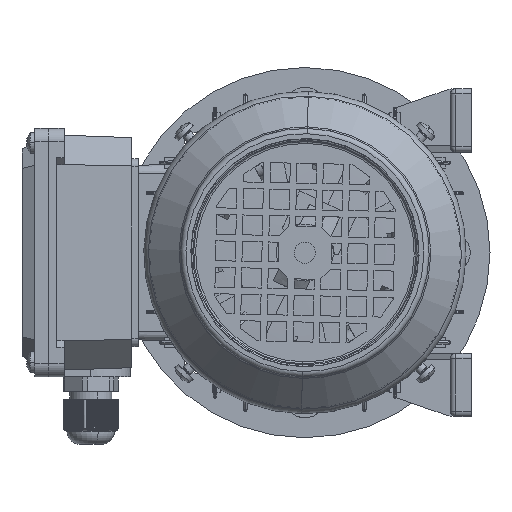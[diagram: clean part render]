
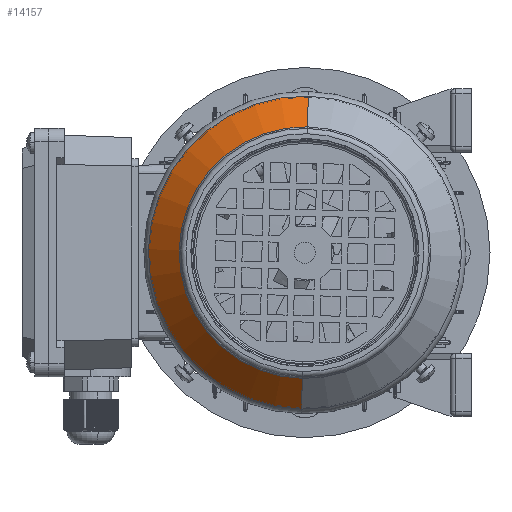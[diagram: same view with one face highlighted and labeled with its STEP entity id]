
A CAD part, left-side view. The second image highlights one B-rep face of the part: STEP entity #14157.
In plain terms, the highlighted conical face has half-angle 45 degrees and reference radius 47.586 mm.
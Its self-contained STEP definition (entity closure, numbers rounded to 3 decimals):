
#3562 = VERTEX_POINT ( 'NONE', #78440 ) ;
#5947 = DIRECTION ( 'NONE',  ( -1., 0., 0. ) ) ;
#13869 = VECTOR ( 'NONE', #30958, 1000. ) ;
#14157 = ADVANCED_FACE ( 'NONE', ( #86649 ), #62198, .T. ) ;
#18306 = ORIENTED_EDGE ( 'NONE', *, *, #109064, .T. ) ;
#18712 = CARTESIAN_POINT ( 'NONE',  ( 108.414, 0., 0. ) ) ;
#25312 = VERTEX_POINT ( 'NONE', #120787 ) ;
#28738 = CARTESIAN_POINT ( 'NONE',  ( 108.414, 0., -47.586 ) ) ;
#28990 = VERTEX_POINT ( 'NONE', #33414 ) ;
#30958 = DIRECTION ( 'NONE',  ( -0.707, 0., -0.707 ) ) ;
#33414 = CARTESIAN_POINT ( 'NONE',  ( 108.414, 0., 47.586 ) ) ;
#40328 = ORIENTED_EDGE ( 'NONE', *, *, #72788, .F. ) ;
#40491 = EDGE_CURVE ( 'NONE', #40545, #25312, #56558, .T. ) ;
#40545 = VERTEX_POINT ( 'NONE', #28738 ) ;
#40665 = CIRCLE ( 'NONE', #102895, 59.193 ) ;
#43730 = CARTESIAN_POINT ( 'NONE',  ( 108.414, 0., -47.586 ) ) ;
#48052 = AXIS2_PLACEMENT_3D ( 'NONE', #83999, #71179, #58517 ) ;
#56558 = LINE ( 'NONE', #43730, #13869 ) ;
#58517 = DIRECTION ( 'NONE',  ( 0., 0., 1. ) ) ;
#62198 = CONICAL_SURFACE ( 'NONE', #109083, 47.586, 0.785 ) ;
#71179 = DIRECTION ( 'NONE',  ( -1., 0., 0. ) ) ;
#72788 = EDGE_CURVE ( 'NONE', #3562, #25312, #40665, .T. ) ;
#78440 = CARTESIAN_POINT ( 'NONE',  ( 96.807, 0., 59.193 ) ) ;
#82040 = DIRECTION ( 'NONE',  ( 0., 0., 1. ) ) ;
#83999 = CARTESIAN_POINT ( 'NONE',  ( 108.414, 0., 0. ) ) ;
#86649 = FACE_OUTER_BOUND ( 'NONE', #104321, .T. ) ;
#94790 = DIRECTION ( 'NONE',  ( -1., 0., 0. ) ) ;
#97222 = DIRECTION ( 'NONE',  ( -0.707, 0., 0.707 ) ) ;
#98051 = ORIENTED_EDGE ( 'NONE', *, *, #118544, .F. ) ;
#100275 = VECTOR ( 'NONE', #97222, 1000. ) ;
#102895 = AXIS2_PLACEMENT_3D ( 'NONE', #107480, #94790, #82040 ) ;
#104321 = EDGE_LOOP ( 'NONE', ( #18306, #118464, #40328, #98051 ) ) ;
#107480 = CARTESIAN_POINT ( 'NONE',  ( 96.807, 0., 0. ) ) ;
#109064 = EDGE_CURVE ( 'NONE', #28990, #40545, #118140, .T. ) ;
#109083 = AXIS2_PLACEMENT_3D ( 'NONE', #18712, #5947, #117557 ) ;
#109980 = CARTESIAN_POINT ( 'NONE',  ( 108.414, 0., 47.586 ) ) ;
#117557 = DIRECTION ( 'NONE',  ( 0., 0., 1. ) ) ;
#118140 = CIRCLE ( 'NONE', #48052, 47.586 ) ;
#118464 = ORIENTED_EDGE ( 'NONE', *, *, #40491, .T. ) ;
#118544 = EDGE_CURVE ( 'NONE', #28990, #3562, #122795, .T. ) ;
#120787 = CARTESIAN_POINT ( 'NONE',  ( 96.807, 0., -59.193 ) ) ;
#122795 = LINE ( 'NONE', #109980, #100275 ) ;
